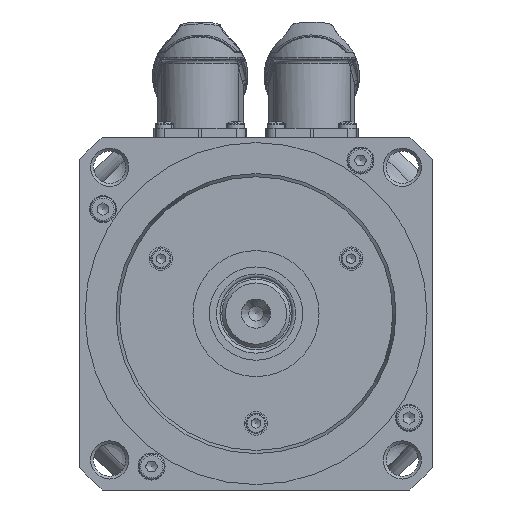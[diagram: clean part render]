
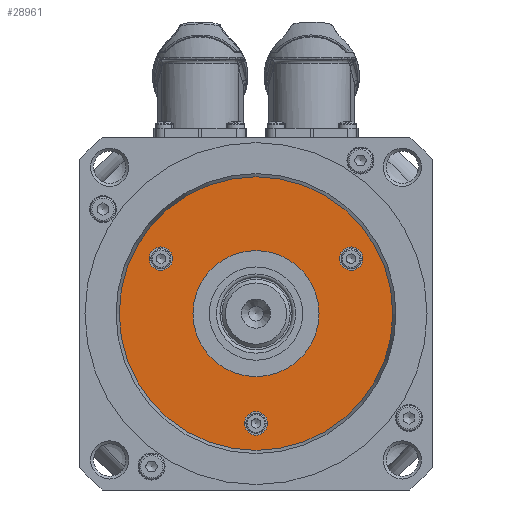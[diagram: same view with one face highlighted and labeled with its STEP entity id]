
A CAD part, left-side view. The second image highlights one B-rep face of the part: STEP entity #28961.
In plain terms, the highlighted planar face has unit normal (-1, 0, 0).
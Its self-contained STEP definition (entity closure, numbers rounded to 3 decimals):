
#1422=FACE_BOUND('',#3986,.T.);
#1423=FACE_BOUND('',#3987,.T.);
#1424=FACE_BOUND('',#3988,.T.);
#1425=FACE_BOUND('',#3989,.T.);
#1675=PLANE('',#31175);
#2260=FACE_OUTER_BOUND('',#3985,.T.);
#3985=EDGE_LOOP('',(#18852,#18853));
#3986=EDGE_LOOP('',(#18854,#18855));
#3987=EDGE_LOOP('',(#18856,#18857));
#3988=EDGE_LOOP('',(#18858,#18859));
#3989=EDGE_LOOP('',(#18860,#18861));
#6023=CIRCLE('',#31105,3.25);
#6024=CIRCLE('',#31106,3.25);
#6028=CIRCLE('',#31113,3.25);
#6029=CIRCLE('',#31114,3.25);
#6033=CIRCLE('',#31121,3.25);
#6034=CIRCLE('',#31122,3.25);
#6059=CIRCLE('',#31176,38.);
#6060=CIRCLE('',#31177,38.);
#6061=CIRCLE('',#31178,17.5);
#6062=CIRCLE('',#31179,17.5);
#10917=VERTEX_POINT('',#43890);
#10918=VERTEX_POINT('',#43891);
#10922=VERTEX_POINT('',#43905);
#10923=VERTEX_POINT('',#43906);
#10927=VERTEX_POINT('',#43920);
#10928=VERTEX_POINT('',#43921);
#10953=VERTEX_POINT('',#44026);
#10954=VERTEX_POINT('',#44027);
#10955=VERTEX_POINT('',#44030);
#10956=VERTEX_POINT('',#44031);
#13871=EDGE_CURVE('',#10917,#10918,#6023,.T.);
#13872=EDGE_CURVE('',#10918,#10917,#6024,.T.);
#13878=EDGE_CURVE('',#10922,#10923,#6028,.T.);
#13879=EDGE_CURVE('',#10923,#10922,#6029,.T.);
#13885=EDGE_CURVE('',#10927,#10928,#6033,.T.);
#13886=EDGE_CURVE('',#10928,#10927,#6034,.T.);
#13936=EDGE_CURVE('',#10953,#10954,#6059,.T.);
#13937=EDGE_CURVE('',#10954,#10953,#6060,.T.);
#13938=EDGE_CURVE('',#10955,#10956,#6061,.T.);
#13939=EDGE_CURVE('',#10956,#10955,#6062,.T.);
#18852=ORIENTED_EDGE('',*,*,#13936,.F.);
#18853=ORIENTED_EDGE('',*,*,#13937,.F.);
#18854=ORIENTED_EDGE('',*,*,#13871,.T.);
#18855=ORIENTED_EDGE('',*,*,#13872,.T.);
#18856=ORIENTED_EDGE('',*,*,#13878,.T.);
#18857=ORIENTED_EDGE('',*,*,#13879,.T.);
#18858=ORIENTED_EDGE('',*,*,#13885,.T.);
#18859=ORIENTED_EDGE('',*,*,#13886,.T.);
#18860=ORIENTED_EDGE('',*,*,#13938,.T.);
#18861=ORIENTED_EDGE('',*,*,#13939,.T.);
#28961=ADVANCED_FACE('',(#2260,#1422,#1423,#1424,#1425),#1675,.T.);
#31105=AXIS2_PLACEMENT_3D('',#43892,#35274,#35275);
#31106=AXIS2_PLACEMENT_3D('',#43893,#35276,#35277);
#31113=AXIS2_PLACEMENT_3D('',#43907,#35292,#35293);
#31114=AXIS2_PLACEMENT_3D('',#43908,#35294,#35295);
#31121=AXIS2_PLACEMENT_3D('',#43922,#35310,#35311);
#31122=AXIS2_PLACEMENT_3D('',#43923,#35312,#35313);
#31175=AXIS2_PLACEMENT_3D('',#44025,#35443,#35444);
#31176=AXIS2_PLACEMENT_3D('',#44028,#35445,#35446);
#31177=AXIS2_PLACEMENT_3D('',#44029,#35447,#35448);
#31178=AXIS2_PLACEMENT_3D('',#44032,#35449,#35450);
#31179=AXIS2_PLACEMENT_3D('',#44033,#35451,#35452);
#35274=DIRECTION('center_axis',(1.,0.,0.));
#35275=DIRECTION('ref_axis',(0.,0.5,0.866));
#35276=DIRECTION('center_axis',(1.,0.,0.));
#35277=DIRECTION('ref_axis',(0.,0.5,0.866));
#35292=DIRECTION('center_axis',(1.,0.,0.));
#35293=DIRECTION('ref_axis',(0.,0.5,-0.866));
#35294=DIRECTION('center_axis',(1.,0.,0.));
#35295=DIRECTION('ref_axis',(0.,0.5,-0.866));
#35310=DIRECTION('center_axis',(1.,0.,0.));
#35311=DIRECTION('ref_axis',(0.,-1.,0.));
#35312=DIRECTION('center_axis',(1.,0.,0.));
#35313=DIRECTION('ref_axis',(0.,-1.,0.));
#35443=DIRECTION('center_axis',(-1.,0.,0.));
#35444=DIRECTION('ref_axis',(0.,-1.,0.));
#35445=DIRECTION('center_axis',(1.,0.,0.));
#35446=DIRECTION('ref_axis',(0.,1.,0.));
#35447=DIRECTION('center_axis',(1.,0.,0.));
#35448=DIRECTION('ref_axis',(0.,1.,0.));
#35449=DIRECTION('center_axis',(1.,0.,0.));
#35450=DIRECTION('ref_axis',(0.,1.,0.));
#35451=DIRECTION('center_axis',(1.,0.,0.));
#35452=DIRECTION('ref_axis',(0.,1.,0.));
#43890=CARTESIAN_POINT('',(-64.75,-24.789,18.065));
#43891=CARTESIAN_POINT('',(-64.75,-28.039,12.435));
#43892=CARTESIAN_POINT('Origin',(-64.75,-26.414,15.25));
#43893=CARTESIAN_POINT('Origin',(-64.75,-26.414,15.25));
#43905=CARTESIAN_POINT('',(-64.75,28.039,12.435));
#43906=CARTESIAN_POINT('',(-64.75,24.789,18.065));
#43907=CARTESIAN_POINT('Origin',(-64.75,26.414,15.25));
#43908=CARTESIAN_POINT('Origin',(-64.75,26.414,15.25));
#43920=CARTESIAN_POINT('',(-64.75,-3.25,-30.5));
#43921=CARTESIAN_POINT('',(-64.75,3.25,-30.5));
#43922=CARTESIAN_POINT('Origin',(-64.75,0.,-30.5));
#43923=CARTESIAN_POINT('Origin',(-64.75,0.,-30.5));
#44025=CARTESIAN_POINT('Origin',(-64.75,0.,38.));
#44026=CARTESIAN_POINT('',(-64.75,0.,38.));
#44027=CARTESIAN_POINT('',(-64.75,0.,-38.));
#44028=CARTESIAN_POINT('Origin',(-64.75,0.,0.));
#44029=CARTESIAN_POINT('Origin',(-64.75,0.,0.));
#44030=CARTESIAN_POINT('',(-64.75,0.,17.5));
#44031=CARTESIAN_POINT('',(-64.75,0.,-17.5));
#44032=CARTESIAN_POINT('Origin',(-64.75,0.,0.));
#44033=CARTESIAN_POINT('Origin',(-64.75,0.,0.));
